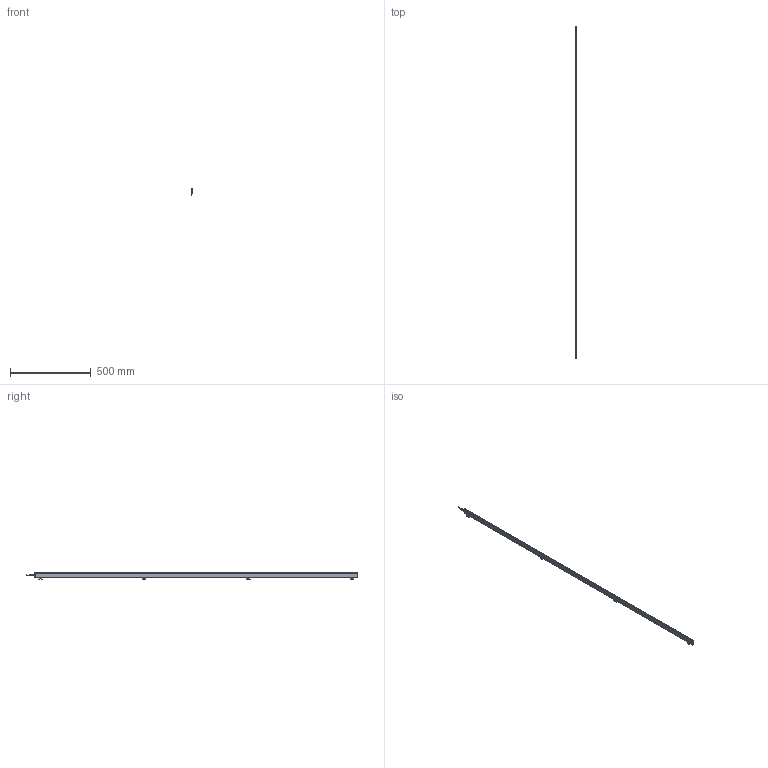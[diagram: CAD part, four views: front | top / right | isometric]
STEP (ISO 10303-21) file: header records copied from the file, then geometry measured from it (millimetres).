
FILE_DESCRIPTION (( 'STEP AP214' ), '1' );
FILE_NAME ('ILG-N-K2-2000mm.STEP', '2017-07-10T14:09:18', ( '' ), ( '' ), 'SwSTEP 2.0', 'SolidWorks 2016', '' );
FILE_SCHEMA (( 'AUTOMOTIVE_DESIGN' ));
Length unit declared in the file: millimetre
Products named in the file (1): ILG-N-K2-2000mm
Bounding box: 10.22 x 2053.5 x 42.41 mm (x, y, z)
Surface area: 336390 mm2 (no closed solid volume)
Topology: 0 solids, 17 shells, 822 faces, 2121 edges, 1329 vertices
Faces by surface type: plane 379, cylinder 305, cone 90, bspline 32, torus 16
Entity records: 36121 total; most frequent: CARTESIAN_POINT 7158, ORIENTED_EDGE 4195, DIRECTION 4057, EDGE_CURVE 2105, AXIS2_PLACEMENT_3D 1476, VERTEX_POINT 1329, LINE 1105, VECTOR 1105
